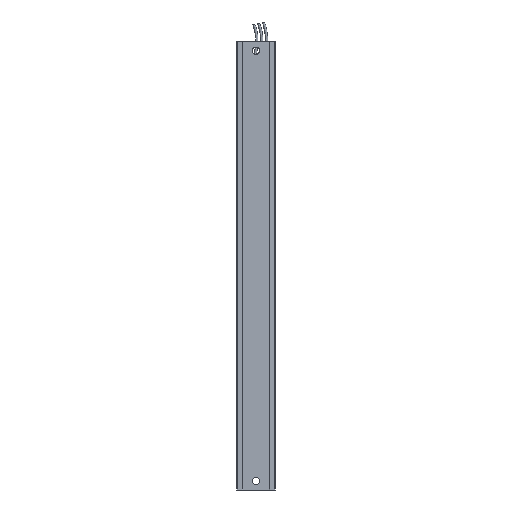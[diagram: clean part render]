
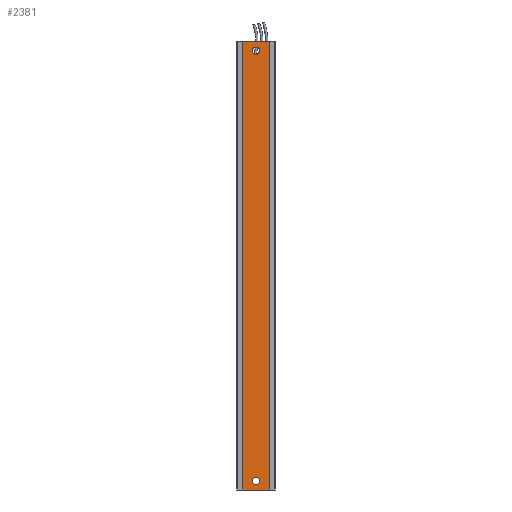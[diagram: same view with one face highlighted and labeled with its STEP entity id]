
A CAD part, front view. The second image highlights one B-rep face of the part: STEP entity #2381.
In plain terms, the highlighted planar face has unit normal (0, -1, 0).
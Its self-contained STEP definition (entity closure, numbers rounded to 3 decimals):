
#1242 = ORIENTED_EDGE ( 'NONE', *, *, #29170, .T. ) ;
#2381 = ADVANCED_FACE ( 'NONE', ( #60424, #21463, #33407 ), #58812, .T. ) ;
#2943 = DIRECTION ( 'NONE',  ( 0., 0., -1. ) ) ;
#6788 = VECTOR ( 'NONE', #9393, 1000. ) ;
#8927 = EDGE_CURVE ( 'NONE', #15982, #41478, #15854, .T. ) ;
#9393 = DIRECTION ( 'NONE',  ( 1., 0., 0. ) ) ;
#10586 = AXIS2_PLACEMENT_3D ( 'NONE', #38381, #48582, #2943 ) ;
#12913 = CARTESIAN_POINT ( 'NONE',  ( 0., 0.1, 146. ) ) ;
#13146 = EDGE_LOOP ( 'NONE', ( #16697, #16370 ) ) ;
#14038 = VERTEX_POINT ( 'NONE', #28098 ) ;
#14055 = EDGE_CURVE ( 'NONE', #41478, #15982, #64177, .T. ) ;
#14235 = LINE ( 'NONE', #14723, #41364 ) ;
#14723 = CARTESIAN_POINT ( 'NONE',  ( -5.9, 0.1, -50. ) ) ;
#15854 = CIRCLE ( 'NONE', #42707, 1.6 ) ;
#15982 = VERTEX_POINT ( 'NONE', #16758 ) ;
#16370 = ORIENTED_EDGE ( 'NONE', *, *, #19896, .F. ) ;
#16697 = ORIENTED_EDGE ( 'NONE', *, *, #54574, .F. ) ;
#16758 = CARTESIAN_POINT ( 'NONE',  ( 1.6, 0.1, 146. ) ) ;
#16880 = ORIENTED_EDGE ( 'NONE', *, *, #37288, .T. ) ;
#17386 = VERTEX_POINT ( 'NONE', #47046 ) ;
#17589 = DIRECTION ( 'NONE',  ( 0., -1., 0. ) ) ;
#17649 = DIRECTION ( 'NONE',  ( 0., -1., 0. ) ) ;
#18042 = DIRECTION ( 'NONE',  ( 0., 0., -1. ) ) ;
#18683 = EDGE_CURVE ( 'NONE', #59531, #63992, #59280, .T. ) ;
#18756 = CARTESIAN_POINT ( 'NONE',  ( 0., 0.1, 146. ) ) ;
#19617 = CARTESIAN_POINT ( 'NONE',  ( -6., 0.1, 150. ) ) ;
#19896 = EDGE_CURVE ( 'NONE', #61123, #36892, #31959, .T. ) ;
#20163 = VECTOR ( 'NONE', #20243, 1000. ) ;
#20243 = DIRECTION ( 'NONE',  ( 0., 0., 1. ) ) ;
#21205 = ORIENTED_EDGE ( 'NONE', *, *, #8927, .T. ) ;
#21463 = FACE_BOUND ( 'NONE', #13146, .T. ) ;
#22369 = CARTESIAN_POINT ( 'NONE',  ( -6., 0.1, -50. ) ) ;
#23859 = DIRECTION ( 'NONE',  ( 0., 0., -1. ) ) ;
#24849 = CARTESIAN_POINT ( 'NONE',  ( 5.9, 0.1, 150. ) ) ;
#27094 = EDGE_LOOP ( 'NONE', ( #16880, #48665, #31638, #1242 ) ) ;
#27999 = EDGE_CURVE ( 'NONE', #14038, #63992, #60770, .T. ) ;
#28098 = CARTESIAN_POINT ( 'NONE',  ( 5.9, 0.1, -50. ) ) ;
#29170 = EDGE_CURVE ( 'NONE', #59531, #17386, #14235, .T. ) ;
#31338 = VECTOR ( 'NONE', #63064, 1000. ) ;
#31638 = ORIENTED_EDGE ( 'NONE', *, *, #18683, .F. ) ;
#31959 = CIRCLE ( 'NONE', #37820, 1.6 ) ;
#33407 = FACE_BOUND ( 'NONE', #47965, .T. ) ;
#36047 = ORIENTED_EDGE ( 'NONE', *, *, #14055, .T. ) ;
#36892 = VERTEX_POINT ( 'NONE', #63564 ) ;
#37288 = EDGE_CURVE ( 'NONE', #17386, #14038, #44835, .T. ) ;
#37820 = AXIS2_PLACEMENT_3D ( 'NONE', #48159, #17649, #53245 ) ;
#38322 = AXIS2_PLACEMENT_3D ( 'NONE', #12913, #48535, #18042 ) ;
#38381 = CARTESIAN_POINT ( 'NONE',  ( -6., 0.1, -50. ) ) ;
#40543 = CARTESIAN_POINT ( 'NONE',  ( 5.9, 0.1, 150. ) ) ;
#41364 = VECTOR ( 'NONE', #50260, 1000. ) ;
#41478 = VERTEX_POINT ( 'NONE', #46765 ) ;
#42707 = AXIS2_PLACEMENT_3D ( 'NONE', #18756, #54368, #23859 ) ;
#44835 = LINE ( 'NONE', #22369, #31338 ) ;
#46765 = CARTESIAN_POINT ( 'NONE',  ( -1.6, 0.1, 146. ) ) ;
#47046 = CARTESIAN_POINT ( 'NONE',  ( -5.9, 0.1, -50. ) ) ;
#47886 = CARTESIAN_POINT ( 'NONE',  ( 1.6, 0.1, -46. ) ) ;
#47965 = EDGE_LOOP ( 'NONE', ( #36047, #21205 ) ) ;
#48094 = CARTESIAN_POINT ( 'NONE',  ( 0., 0.1, -46. ) ) ;
#48159 = CARTESIAN_POINT ( 'NONE',  ( 0., 0.1, -46. ) ) ;
#48535 = DIRECTION ( 'NONE',  ( 0., 1., 0. ) ) ;
#48582 = DIRECTION ( 'NONE',  ( 0., -1., 0. ) ) ;
#48665 = ORIENTED_EDGE ( 'NONE', *, *, #27999, .T. ) ;
#50260 = DIRECTION ( 'NONE',  ( 0., 0., -1. ) ) ;
#53180 = DIRECTION ( 'NONE',  ( 0., 0., -1. ) ) ;
#53245 = DIRECTION ( 'NONE',  ( 0., 0., -1. ) ) ;
#54368 = DIRECTION ( 'NONE',  ( 0., 1., 0. ) ) ;
#54574 = EDGE_CURVE ( 'NONE', #36892, #61123, #63083, .T. ) ;
#54773 = AXIS2_PLACEMENT_3D ( 'NONE', #48094, #17589, #53180 ) ;
#58812 = PLANE ( 'NONE',  #10586 ) ;
#59280 = LINE ( 'NONE', #19617, #6788 ) ;
#59431 = CARTESIAN_POINT ( 'NONE',  ( -5.9, 0.1, 150. ) ) ;
#59531 = VERTEX_POINT ( 'NONE', #59431 ) ;
#60424 = FACE_OUTER_BOUND ( 'NONE', #27094, .T. ) ;
#60770 = LINE ( 'NONE', #40543, #20163 ) ;
#61123 = VERTEX_POINT ( 'NONE', #47886 ) ;
#63064 = DIRECTION ( 'NONE',  ( 1., 0., 0. ) ) ;
#63083 = CIRCLE ( 'NONE', #54773, 1.6 ) ;
#63564 = CARTESIAN_POINT ( 'NONE',  ( -1.6, 0.1, -46. ) ) ;
#63992 = VERTEX_POINT ( 'NONE', #24849 ) ;
#64177 = CIRCLE ( 'NONE', #38322, 1.6 ) ;
